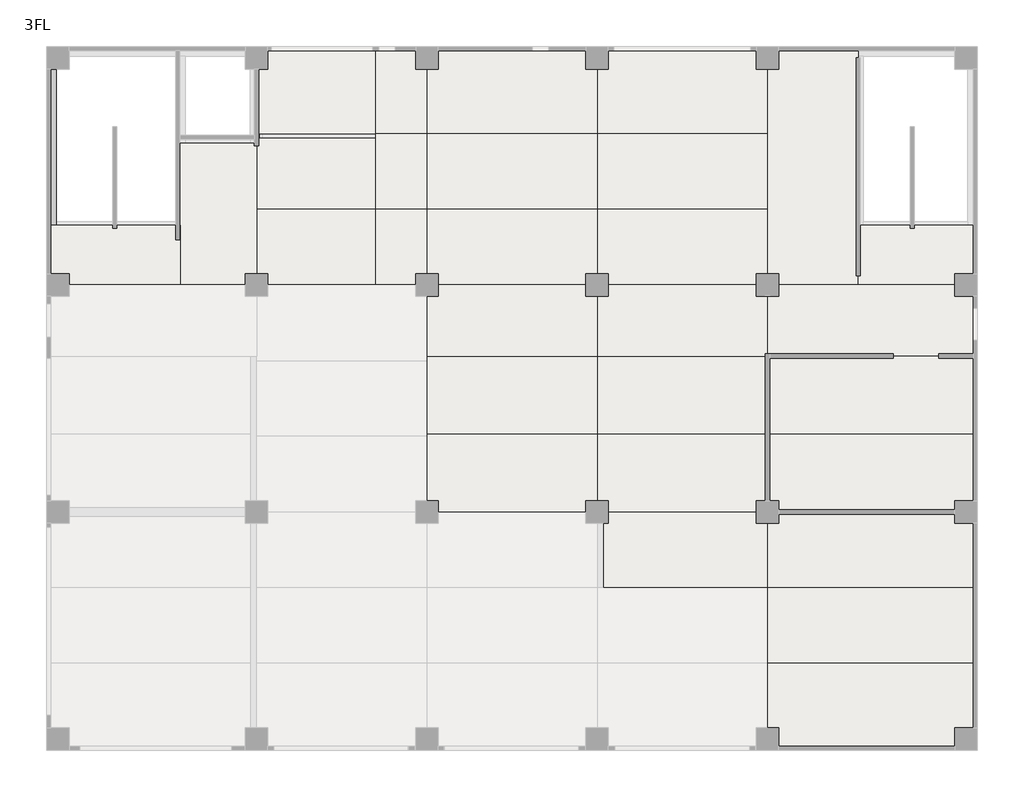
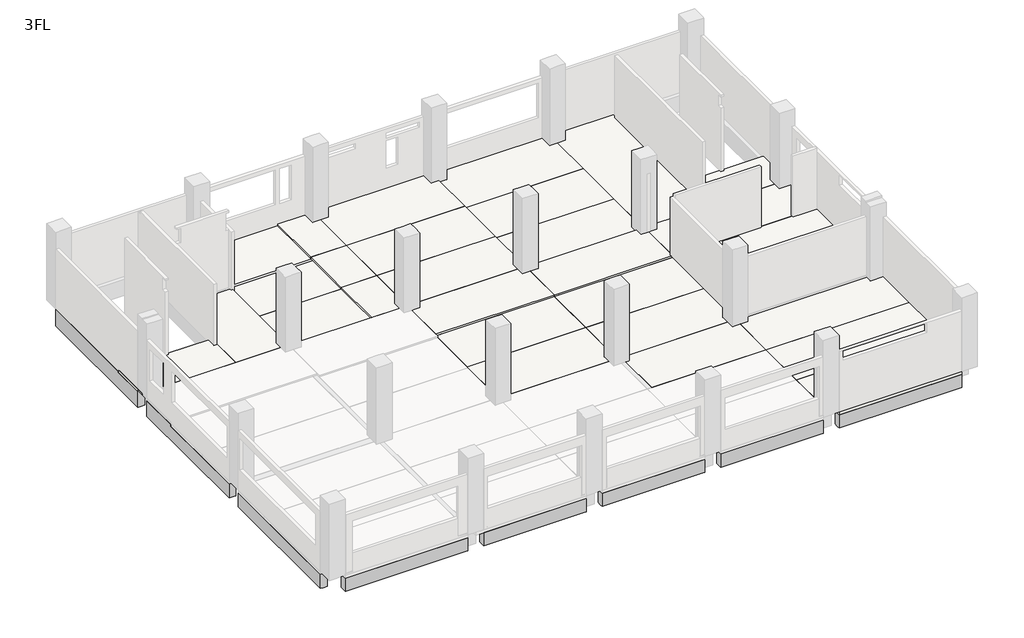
# One storey, part 2 of 4: 29 slabs, 8 beams.
"""IFC4 building model written with IfcOpenShell, lengths in millimetres."""

import ifcopenshell
import ifcopenshell.guid

model = None  # the IFC model being written
_history = None  # IfcOwnerHistory: only IFC2X3 demands one
_inside = {}  # id of a spatial element -> (the spatial element, [elements in it])
_under = {}  # id of a project, library or spatial element -> (it, [spatial elements below it])
_declared = {}  # id of a project -> (the project, [libraries it declares])
_typed = {}  # id of a type object -> (the type object, [elements of that type])
_made_of = {}  # id of a material, layer set ... -> (it, [elements and type objects made of it])


def new_model(schema):
    """Start an empty IFC model of exactly this schema.

    Asked for "IFC4X3", IfcOpenShell would pick the latest addendum, in which some entities
    have other attributes; the version numbers below select the first issue.
    IFC2X3 requires an IfcOwnerHistory on every rooted entity: one is made here for all.
    """
    global model, _history
    if schema == "IFC4X3":
        model = ifcopenshell.file(schema_version=(4, 3, 0, 0))
    else:
        model = ifcopenshell.file(schema=schema)
    _inside.clear()
    _under.clear()
    _declared.clear()
    _typed.clear()
    _made_of.clear()
    _history = None
    if model.schema == "IFC2X3":
        org = make("IfcOrganization", Name="unknown")
        user = make(
            "IfcPersonAndOrganization",
            ThePerson=make("IfcPerson", FamilyName="unknown"),
            TheOrganization=org,
        )
        app = make(
            "IfcApplication",
            ApplicationDeveloper=org,
            Version="unknown",
            ApplicationFullName="unknown",
            ApplicationIdentifier="unknown",
        )
        _history = make(
            "IfcOwnerHistory",
            OwningUser=user,
            OwningApplication=app,
            ChangeAction="ADDED",
            CreationDate=0,
        )
    return model


def make(cls, **values):
    """One entity of the class cls with the attributes given. An attribute that is None is left unset."""
    return model.create_entity(
        cls, **{name: value for name, value in values.items() if value is not None}
    )


def rooted(cls, **values):
    """An entity with a GlobalId (a new one), such as an element, a storey or a relation."""
    return make(cls, GlobalId=ifcopenshell.guid.new(), OwnerHistory=_history, **values)


def si_unit(unit_type, name, prefix=None):
    """IfcSIUnit, for example si_unit("LENGTHUNIT", "METRE", prefix="MILLI")."""
    return make("IfcSIUnit", UnitType=unit_type, Prefix=prefix, Name=name)


def assignment(units):
    """IfcUnitAssignment: the units of a project."""
    return None if units is None else make("IfcUnitAssignment", Units=units)


def point(xyz):
    """IfcCartesianPoint."""
    return None if xyz is None else make("IfcCartesianPoint", Coordinates=xyz)


def direction(xyz):
    """IfcDirection."""
    return None if xyz is None else make("IfcDirection", DirectionRatios=xyz)


def frame(location, z_axis=None, x_axis=None):
    """IfcAxis2Placement3D, a coordinate frame: its origin and axes. An axis left out is left unset."""
    return make(
        "IfcAxis2Placement3D",
        Location=point(location),
        Axis=direction(z_axis),
        RefDirection=direction(x_axis),
    )


def origin():
    """The frame at (0, 0, 0) with its axes left unset."""
    return frame((0.0, 0.0, 0.0))


def place(relative_to, where):
    """IfcLocalPlacement: puts the frame where relative to a parent placement (None: the world)."""
    return make(
        "IfcLocalPlacement", PlacementRelTo=relative_to, RelativePlacement=where
    )


def context(
    kind, dimensions, precision=None, world=None, true_north=None, identifier=None
):
    """IfcGeometricRepresentationContext, for example the 3D "Model" context."""
    return make(
        "IfcGeometricRepresentationContext",
        ContextIdentifier=identifier,
        ContextType=kind,
        CoordinateSpaceDimension=dimensions,
        Precision=precision,
        WorldCoordinateSystem=world,
        TrueNorth=true_north,
    )


def project(units=None, contexts=None):
    """IfcProject with its units and contexts."""
    return rooted(
        "IfcProject",
        Name="project",
        RepresentationContexts=contexts,
        UnitsInContext=assignment(units),
    )


def spatial(cls, under=None, at=None, **own):
    """A site, building, storey or space (cls), placed at a placement, below another one or the project."""
    s = rooted(cls, ObjectPlacement=at, **own)
    if under is not None:
        _under.setdefault(under.id(), (under, []))[1].append(s)
    return s


def polyline(points):
    """IfcPolyline through the points."""
    return make("IfcPolyline", Points=[point(p) for p in points])


def outline(outer, holes=None, kind="AREA"):
    """IfcArbitraryClosedProfileDef: a profile drawn as a closed curve; with holes, ...WithVoids."""
    if holes is None:
        return make("IfcArbitraryClosedProfileDef", ProfileType=kind, OuterCurve=outer)
    return make(
        "IfcArbitraryProfileDefWithVoids",
        ProfileType=kind,
        OuterCurve=outer,
        InnerCurves=holes,
    )


def extrude(swept, where, along, depth):
    """IfcExtrudedAreaSolid: the profile swept, set in the frame where, extruded along a direction by depth."""
    return make(
        "IfcExtrudedAreaSolid",
        SweptArea=swept,
        Position=where,
        ExtrudedDirection=direction(along),
        Depth=depth,
    )


def faces_of(points, faces, orient=None, outer=None):
    """IfcFace entities. A face is a list of loops; a loop is a list of indices into points, from 0.

    orient and outer hold one flag for each loop. By default every Orientation is true, the
    first loop of a face is its IfcFaceOuterBound and the others are IfcFaceBound.
    """
    made = []
    for i, loops in enumerate(faces):
        bounds = []
        for j, loop in enumerate(loops):
            is_outer = j == 0 if outer is None else outer[i][j]
            bounds.append(
                make(
                    "IfcFaceOuterBound" if is_outer else "IfcFaceBound",
                    Bound=make("IfcPolyLoop", Polygon=[points[k] for k in loop]),
                    Orientation=True if orient is None else orient[i][j],
                )
            )
        made.append(make("IfcFace", Bounds=bounds))
    return made


def faceted_brep(points, faces, orient=None, outer=None, voids=None):
    """IfcFacetedBrep: a solid bounded by flat faces; with voids (closed shells), ...WithVoids."""
    shared = [point(p) for p in points]
    hull = make("IfcClosedShell", CfsFaces=faces_of(shared, faces, orient, outer))
    if voids is None:
        return make("IfcFacetedBrep", Outer=hull)
    return make(
        "IfcFacetedBrepWithVoids",
        Outer=hull,
        Voids=[
            make(cls, CfsFaces=faces_of(shared, fs, o, b)) for cls, fs, o, b in voids
        ],
    )


def shape(context_of_items, identifier, shape_type, items):
    """IfcShapeRepresentation: the items that make up one representation, for example the "Body"."""
    return make(
        "IfcShapeRepresentation",
        ContextOfItems=context_of_items,
        RepresentationIdentifier=identifier,
        RepresentationType=shape_type,
        Items=items,
    )


def made_of(thing, what):
    """Note that an element or type object is made of a material, layer set ...; save() writes the relation."""
    if what is not None:
        _made_of.setdefault(what.id(), (what, []))[1].append(thing)
    return thing


def element(
    cls,
    number,
    at=None,
    inside=None,
    cuts=None,
    type_object=None,
    material=None,
    context=None,
    identifier="Body",
    shape_type=None,
    held_by="IfcProductDefinitionShape",
    body=None,
    shapes=None,
    **own,
):
    """One element of the class cls, such as IfcWall. Its Tag is "e" and its number.

    at: its placement. inside: the storey or other place that contains it. cuts: it is an
    opening in that element (IfcRelVoidsElement). A single representation is given by context,
    identifier, shape_type and body (its items); several are given by shapes. held_by: the class
    of the entity that holds the representations. save() writes the other relations.
    """
    e = rooted(cls, Tag="e%d" % number, ObjectPlacement=at, **own)
    if body is not None:
        shapes = [shape(context, identifier, shape_type, body)]
    if shapes is not None:
        e.Representation = make(held_by, Representations=shapes)
    if inside is not None:
        _inside.setdefault(inside.id(), (inside, []))[1].append(e)
    if cuts is not None:
        rooted(
            "IfcRelVoidsElement", RelatingBuildingElement=cuts, RelatedOpeningElement=e
        )
    if type_object is not None:
        _typed.setdefault(type_object.id(), (type_object, []))[1].append(e)
    return made_of(e, material)


def aggregate(whole, parts):
    """IfcRelAggregates: a whole, such as a stair, and the parts it consists of."""
    return rooted("IfcRelAggregates", RelatingObject=whole, RelatedObjects=parts)


def save(model, path):
    """Write the relations noted so far, then the file.

    IfcRelAggregates (storeys below a building ...), IfcRelContainedInSpatialStructure (elements
    in a storey), IfcRelDefinesByType, IfcRelAssociatesMaterial and IfcRelDeclares: one each for
    every whole, place, type object, material and project.
    """
    for whole, parts in _under.values():
        aggregate(whole, parts)
    for where, things in _inside.values():
        rooted(
            "IfcRelContainedInSpatialStructure",
            RelatedElements=things,
            RelatingStructure=where,
        )
    for kind, things in _typed.values():
        rooted("IfcRelDefinesByType", RelatedObjects=things, RelatingType=kind)
    for what, things in _made_of.values():
        rooted("IfcRelAssociatesMaterial", RelatedObjects=things, RelatingMaterial=what)
    for by, libraries in _declared.values():
        rooted("IfcRelDeclares", RelatingContext=by, RelatedDefinitions=libraries)
    model.write(path)


model = new_model("IFC4")

# Units and contexts
model_context = context("Model", 3, world=origin())
ifc_project = project(units=[si_unit("LENGTHUNIT", "METRE", prefix="MILLI")], contexts=[model_context])

# Site, building, storey
site = spatial("IfcSite", under=ifc_project)
building = spatial("IfcBuilding", under=site)
storey = spatial("IfcBuildingStorey", under=building, Name="3FL", Elevation=8200.0)

# Beams
placement = place(None, origin())
element("IfcBeam", 1, ObjectType="RC_B : 3G1", at=placement, inside=storey, context=model_context, shape_type="Brep", body=[
    faceted_brep([(6600.0, -50.0, 7950.0), (6600.0, -50.0, 7250.0), (400.0, -50.0, 7250.0), (400.0, -50.0, 7950.0), (6600.0, -400.0, 7250.0), (6575.0, -400.0, 7250.0), (425.0, -400.0, 7250.0), (400.0, -400.0, 7250.0), (6600.0, -400.0, 7950.0), (400.0, -400.0, 7950.0)], [[[0, 1, 2, 3]], [[1, 4, 5, 6, 7, 2]], [[4, 8, 9, 7, 6, 5]], [[4, 1, 0, 8]], [[8, 0, 3, 9]], [[3, 2, 7, 9]]]),
])
element("IfcBeam", 2, ObjectType="RC_B : 3G1", at=placement, inside=storey, context=model_context, shape_type="Brep", body=[
    faceted_brep([(12600.0, -50.0, 7950.0), (12600.0, -50.0, 7250.0), (7400.0, -50.0, 7250.0), (7400.0, -50.0, 7950.0), (12600.0, -400.0, 7250.0), (12575.0, -400.0, 7250.0), (7400.0, -400.0, 7250.0), (7400.0, -250.0, 7250.0), (12600.0, -400.0, 7950.0), (7400.0, -400.0, 7950.0)], [[[0, 1, 2, 3]], [[1, 4, 5, 6, 7, 2]], [[4, 8, 9, 6, 5]], [[4, 1, 0, 8]], [[8, 0, 3, 9]], [[3, 2, 7, 6, 9]]]),
])
element("IfcBeam", 3, ObjectType="RC_B : 3G1", at=placement, inside=storey, context=model_context, shape_type="Brep", body=[
    faceted_brep([(18600.0, -50.0, 7950.0), (18600.0, -50.0, 7250.0), (13400.0, -50.0, 7250.0), (13400.0, -50.0, 7950.0), (18600.0, -400.0, 7250.0), (18575.0, -400.0, 7250.0), (13400.0, -400.0, 7250.0), (13400.0, -250.0, 7250.0), (18600.0, -400.0, 7950.0), (13400.0, -400.0, 7950.0)], [[[0, 1, 2, 3]], [[1, 4, 5, 6, 7, 2]], [[4, 8, 9, 6, 5]], [[4, 1, 0, 8]], [[8, 0, 3, 9]], [[3, 2, 7, 6, 9]]]),
])
element("IfcBeam", 4, ObjectType="RC_B : 3G1", at=placement, inside=storey, context=model_context, shape_type="Brep", body=[
    faceted_brep([(24600.0, -50.0, 7950.0), (24600.0, -50.0, 7250.0), (19400.0, -50.0, 7250.0), (19400.0, -50.0, 7950.0), (24600.0, -400.0, 7250.0), (24575.0, -400.0, 7250.0), (19400.0, -400.0, 7250.0), (19400.0, -250.0, 7250.0), (24600.0, -400.0, 7950.0), (19400.0, -400.0, 7950.0)], [[[0, 1, 2, 3]], [[1, 4, 5, 6, 7, 2]], [[4, 8, 9, 6, 5]], [[4, 1, 0, 8]], [[8, 0, 3, 9]], [[3, 2, 7, 6, 9]]]),
])
element("IfcBeam", 5, ObjectType="RC_B : 3G1", at=placement, inside=storey, context=model_context, shape_type="Brep", body=[
    faceted_brep([(31600.0, -50.0, 7950.0), (31600.0, -50.0, 7250.0), (25400.0, -50.0, 7250.0), (25400.0, -50.0, 7950.0), (31600.0, -250.0, 7250.0), (31600.0, -400.0, 7250.0), (25400.0, -400.0, 7250.0), (25400.0, -250.0, 7250.0), (31600.0, -400.0, 7950.0), (25400.0, -400.0, 7950.0)], [[[0, 1, 2, 3]], [[1, 4, 5, 6, 7, 2]], [[5, 8, 9, 6]], [[5, 4, 1, 0, 8]], [[8, 0, 3, 9]], [[3, 2, 7, 6, 9]]]),
])
element("IfcBeam", 6, ObjectType="RC_B : 3G11", at=placement, inside=storey, context=model_context, shape_type="Brep", body=[
    faceted_brep([(-400.0, 7600.0, 7950.0), (-400.0, 7600.0, 7200.0), (-400.0, 400.0, 7200.0), (-400.0, 400.0, 7950.0), (-400.0, 2664.0, 7950.0), (-400.0, 5328.0, 7950.0), (-250.0, 7600.0, 7200.0), (-50.0, 7600.0, 7200.0), (-50.0, 400.0, 7200.0), (-250.0, 400.0, 7200.0), (-50.0, 7600.0, 7950.0), (-50.0, 5505.0, 7950.0), (-50.0, 5155.0, 7950.0), (-50.0, 2835.0, 7950.0), (-50.0, 2485.0, 7950.0), (-50.0, 400.0, 7950.0)], [[[0, 1, 2, 3, 4, 5]], [[1, 6, 7, 8, 9, 2]], [[7, 10, 11, 12, 13, 14, 15, 8]], [[7, 6, 1, 0, 10]], [[10, 0, 5, 4, 3, 15, 14, 13, 12, 11]], [[3, 2, 9, 8, 15]]]),
])
element("IfcBeam", 7, ObjectType="RC_B : 3G11", at=placement, inside=storey, context=model_context, shape_type="Brep", body=[
    faceted_brep([(-400.0, 15600.0, 8040.0), (-400.0, 15600.0, 7200.0), (-400.0, 8400.0, 7200.0), (-400.0, 8400.0, 7950.0), (-400.0, 10748.0, 7950.0), (-400.0, 13496.0, 7950.0), (-400.0, 13496.0, 8040.0), (-250.0, 15600.0, 7200.0), (-50.0, 15600.0, 7200.0), (-50.0, 8400.0, 7200.0), (-250.0, 8400.0, 7200.0), (-50.0, 15600.0, 8040.0), (-50.0, 13675.0, 8040.0), (-50.0, 13496.0, 8040.0), (-50.0, 13496.0, 7950.0), (-50.0, 13325.0, 7950.0), (-50.0, 10925.0, 7950.0), (-50.0, 10575.0, 7950.0), (-50.0, 8400.0, 7950.0)], [[[0, 1, 2, 3, 4, 5, 6]], [[1, 7, 8, 9, 10, 2]], [[8, 11, 12, 13, 14, 15, 16, 17, 18, 9]], [[8, 7, 1, 0, 11]], [[0, 6, 13, 12, 11]], [[14, 5, 4, 3, 18, 17, 16, 15]], [[5, 14, 13, 6]], [[3, 2, 10, 9, 18]]]),
])
element("IfcBeam", 8, ObjectType="RC_B : 3G11", at=placement, inside=storey, context=model_context, shape_type="Brep", body=[
    faceted_brep([(-400.0, 23600.0, 8100.0), (-400.0, 23600.0, 7200.0), (-400.0, 16400.0, 7200.0), (-400.0, 16400.0, 8040.0), (-400.0, 18100.0, 8040.0), (-400.0, 18100.0, 8100.0), (-250.0, 23600.0, 7200.0), (-50.0, 23600.0, 7200.0), (-50.0, 16400.0, 7200.0), (-250.0, 16400.0, 7200.0), (-50.0, 23600.0, 8100.0), (-50.0, 18225.0, 8100.0), (-50.0, 18100.0, 8100.0), (-50.0, 18100.0, 8040.0), (-50.0, 17975.0, 8040.0), (-50.0, 16400.0, 8040.0), (-250.0, 23600.0, 8100.0), (-250.0, 18100.0, 8100.0)], [[[0, 1, 2, 3, 4, 5]], [[1, 6, 7, 8, 9, 2]], [[7, 10, 11, 12, 13, 14, 15, 8]], [[10, 16, 0, 5, 17, 12, 11]], [[1, 0, 16, 10, 7, 6]], [[13, 4, 3, 15, 14]], [[4, 13, 12, 17, 5]], [[3, 2, 9, 8, 15]]]),
])

# Slabs
element("IfcSlab", 9, ObjectType="S1", at=placement, inside=storey, context=model_context, shape_type="Brep", body=[
    faceted_brep([(25000.0, 10748.0, 8040.0), (32400.0, 10748.0, 8040.0), (32400.0, 8400.0, 8040.0), (32050.0, 8400.0, 8040.0), (31600.0, 8400.0, 8040.0), (31600.0, 8175.0, 8040.0), (31600.0, 8000.0, 8040.0), (25400.0, 8000.0, 8040.0), (25400.0, 8400.0, 8040.0), (25000.0, 8400.0, 8040.0), (32400.0, 10748.0, 8190.0), (25000.0, 10748.0, 8190.0), (25000.0, 8400.0, 8190.0), (25400.0, 8400.0, 8190.0), (25400.0, 8000.0, 8190.0), (31600.0, 8000.0, 8190.0), (31600.0, 8400.0, 8190.0), (32250.0, 8400.0, 8190.0), (32400.0, 8400.0, 8190.0), (25400.0, 8000.0, 8100.0), (31600.0, 8000.0, 8100.0), (25000.0, 10748.0, 8100.0), (25000.0, 8400.0, 8100.0), (32400.0, 8400.0, 8100.0), (25400.0, 8400.0, 8100.0), (31600.0, 8400.0, 8100.0)], [[[0, 1, 2, 3, 4, 5, 6, 7, 8, 9]], [[10, 11, 12, 13, 14, 15, 16, 17, 18]], [[14, 19, 7, 6, 20, 15]], [[11, 21, 0, 9, 22, 12]], [[1, 0, 21, 11, 10]], [[1, 10, 18, 23, 2]], [[8, 7, 19, 14, 13, 24]], [[9, 8, 24, 13, 12, 22]], [[16, 15, 20, 6, 5, 4, 25]], [[16, 25, 4, 3, 2, 23, 18, 17]]]),
])
element("IfcSlab", 10, ObjectType="S1", at=placement, inside=storey, context=model_context, shape_type="Brep", body=[
    faceted_brep([(32400.0, 13496.0, 8040.0), (32400.0, 10748.0, 8040.0), (25000.0, 10748.0, 8040.0), (25000.0, 13496.0, 8040.0), (32400.0, 13496.0, 8190.0), (25000.0, 13496.0, 8190.0), (25000.0, 10748.0, 8190.0), (32400.0, 10748.0, 8190.0), (25000.0, 10748.0, 8100.0), (25000.0, 13496.0, 8100.0)], [[[0, 1, 2, 3]], [[4, 5, 6, 7]], [[1, 0, 4, 7]], [[2, 1, 7, 6, 8]], [[3, 2, 8, 6, 5, 9]], [[0, 3, 9, 5, 4]]]),
])
element("IfcSlab", 11, ObjectType="S2", at=placement, inside=storey, context=model_context, shape_type="Brep", body=[
    faceted_brep([(19400.0, 7600.0, 7950.0), (19400.0, 8000.0, 7950.0), (24600.0, 8000.0, 7950.0), (24600.0, 7825.0, 7950.0), (24600.0, 7600.0, 7950.0), (24775.0, 7600.0, 7950.0), (25000.0, 7600.0, 7950.0), (25000.0, 5328.0, 7950.0), (19225.0, 5328.0, 7950.0), (19225.0, 5505.0, 7950.0), (19225.0, 7600.0, 7950.0), (19400.0, 8000.0, 8100.0), (19400.0, 7600.0, 8100.0), (19225.0, 7600.0, 8100.0), (19225.0, 5328.0, 8100.0), (25000.0, 5328.0, 8100.0), (25000.0, 7600.0, 8100.0), (24600.0, 7600.0, 8100.0), (24600.0, 8000.0, 8100.0)], [[[0, 1, 2, 3, 4, 5, 6, 7, 8, 9, 10]], [[11, 12, 13, 14, 15, 16, 17, 18]], [[15, 7, 6, 16]], [[7, 15, 14, 8]], [[1, 11, 18, 2]], [[0, 12, 11, 1]], [[12, 0, 10, 13]], [[4, 17, 16, 6, 5]], [[17, 4, 3, 2, 18]], [[10, 9, 8, 14, 13]]]),
])
element("IfcSlab", 12, ObjectType="S2", at=placement, inside=storey, context=model_context, shape_type="Brep", body=[
    faceted_brep([(25000.0, 2664.0, 7950.0), (32400.0, 2664.0, 7950.0), (32400.0, 400.0, 7950.0), (32050.0, 400.0, 7950.0), (31600.0, 400.0, 7950.0), (31600.0, -50.0, 7950.0), (31600.0, -400.0, 7950.0), (25400.0, -400.0, 7950.0), (25400.0, -50.0, 7950.0), (25400.0, 400.0, 7950.0), (25000.0, 400.0, 7950.0), (32400.0, 2664.0, 8100.0), (25000.0, 2664.0, 8100.0), (25000.0, 400.0, 8100.0), (25400.0, 400.0, 8100.0), (25400.0, -400.0, 8100.0), (31600.0, -400.0, 8100.0), (31600.0, 400.0, 8100.0), (32250.0, 400.0, 8100.0), (32400.0, 400.0, 8100.0)], [[[0, 1, 2, 3, 4, 5, 6, 7, 8, 9, 10]], [[11, 12, 13, 14, 15, 16, 17, 18, 19]], [[15, 7, 6, 16]], [[12, 0, 10, 13]], [[1, 0, 12, 11]], [[1, 11, 19, 2]], [[14, 9, 8, 7, 15]], [[9, 14, 13, 10]], [[4, 17, 16, 6, 5]], [[17, 4, 3, 2, 19, 18]]]),
])
element("IfcSlab", 13, ObjectType="S2", at=placement, inside=storey, context=model_context, shape_type="SweptSolid", body=[
    extrude(outline(polyline([(32400.0, 5328.0), (32400.0, 2664.0), (25000.0, 2664.0), (25000.0, 5328.0), (32400.0, 5328.0)])), frame((0.0, 0.0, 7950.0), z_axis=(0.0, 0.0, 1.0), x_axis=(1.0, 0.0, 0.0)), (0.0, 0.0, 1.0), 150.0),
])
element("IfcSlab", 14, ObjectType="S2", at=placement, inside=storey, context=model_context, shape_type="Brep", body=[
    faceted_brep([(32400.0, 5328.0, 7950.0), (25000.0, 5328.0, 7950.0), (25000.0, 7600.0, 7950.0), (25225.0, 7600.0, 7950.0), (25400.0, 7600.0, 7950.0), (25400.0, 8000.0, 7950.0), (31600.0, 8000.0, 7950.0), (31600.0, 7825.0, 7950.0), (31600.0, 7600.0, 7950.0), (32050.0, 7600.0, 7950.0), (32400.0, 7600.0, 7950.0), (25000.0, 5328.0, 8100.0), (32400.0, 5328.0, 8100.0), (32400.0, 7600.0, 8100.0), (32250.0, 7600.0, 8100.0), (31600.0, 7600.0, 8100.0), (31600.0, 8000.0, 8100.0), (25400.0, 8000.0, 8100.0), (25400.0, 7600.0, 8100.0), (25000.0, 7600.0, 8100.0), (25400.0, 8000.0, 8040.0), (31600.0, 8000.0, 8040.0)], [[[0, 1, 2, 3, 4, 5, 6, 7, 8, 9, 10]], [[11, 12, 13, 14, 15, 16, 17, 18, 19]], [[12, 0, 10, 13]], [[1, 0, 12, 11]], [[1, 11, 19, 2]], [[5, 20, 17, 16, 21, 6]], [[4, 18, 17, 20, 5]], [[18, 4, 3, 2, 19]], [[8, 15, 14, 13, 10, 9]], [[15, 8, 7, 6, 21, 16]]]),
])
element("IfcSlab", 15, ObjectType="S2", at=placement, inside=storey, context=model_context, shape_type="Brep", body=[
    faceted_brep([(13400.0, 15600.0, 8040.0), (13400.0, 16000.0, 8040.0), (18600.0, 16000.0, 8040.0), (18600.0, 15825.0, 8040.0), (18600.0, 15600.0, 8040.0), (18775.0, 15600.0, 8040.0), (18775.0, 13675.0, 8040.0), (13000.0, 13675.0, 8040.0), (13000.0, 15600.0, 8040.0), (13225.0, 15600.0, 8040.0), (13000.0, 13496.0, 8190.0), (19000.0, 13496.0, 8190.0), (19000.0, 15600.0, 8190.0), (18600.0, 15600.0, 8190.0), (18600.0, 16000.0, 8190.0), (13400.0, 16000.0, 8190.0), (13400.0, 15600.0, 8190.0), (13000.0, 15600.0, 8190.0), (19000.0, 13496.0, 8100.0), (19000.0, 13675.0, 8100.0), (19000.0, 15600.0, 8100.0), (13000.0, 13496.0, 8100.0), (13225.0, 13496.0, 8100.0), (18775.0, 13496.0, 8100.0), (13000.0, 13675.0, 8100.0), (13400.0, 16000.0, 8100.0), (18600.0, 16000.0, 8100.0), (13400.0, 15600.0, 8100.0), (18775.0, 15600.0, 8100.0), (18600.0, 15600.0, 8100.0), (18775.0, 13675.0, 8100.0), (13225.0, 13675.0, 8100.0)], [[[0, 1, 2, 3, 4, 5, 6, 7, 8, 9]], [[10, 11, 12, 13, 14, 15, 16, 17]], [[12, 11, 18, 19, 20]], [[11, 10, 21, 22, 23, 18]], [[10, 17, 8, 7, 24, 21]], [[1, 25, 15, 14, 26, 2]], [[1, 0, 27, 16, 15, 25]], [[0, 9, 8, 17, 16, 27]], [[13, 12, 20, 28, 5, 4, 29]], [[4, 3, 2, 26, 14, 13, 29]], [[24, 7, 6, 30, 31]], [[21, 24, 31, 30, 28, 20, 19, 18, 23, 22]], [[28, 30, 6, 5]]]),
])
element("IfcSlab", 16, ObjectType="S2", at=placement, inside=storey, context=model_context, shape_type="Brep", body=[
    faceted_brep([(19400.0, 15600.0, 8040.0), (19400.0, 16000.0, 8040.0), (24600.0, 16000.0, 8040.0), (24600.0, 15825.0, 8040.0), (24600.0, 15600.0, 8040.0), (24775.0, 15600.0, 8040.0), (24775.0, 13675.0, 8040.0), (19000.0, 13675.0, 8040.0), (19000.0, 15600.0, 8040.0), (19225.0, 15600.0, 8040.0), (19000.0, 13496.0, 8190.0), (25000.0, 13496.0, 8190.0), (25000.0, 15600.0, 8190.0), (24600.0, 15600.0, 8190.0), (24600.0, 16000.0, 8190.0), (19400.0, 16000.0, 8190.0), (19400.0, 15600.0, 8190.0), (19000.0, 15600.0, 8190.0), (25000.0, 13496.0, 8100.0), (25000.0, 15600.0, 8100.0), (19000.0, 13496.0, 8100.0), (19225.0, 13496.0, 8100.0), (24775.0, 13496.0, 8100.0), (19000.0, 15600.0, 8100.0), (19000.0, 13675.0, 8100.0), (19400.0, 16000.0, 8100.0), (24600.0, 16000.0, 8100.0), (19400.0, 15600.0, 8100.0), (24775.0, 15600.0, 8100.0), (24600.0, 15600.0, 8100.0), (24775.0, 13675.0, 8100.0), (19225.0, 13675.0, 8100.0)], [[[0, 1, 2, 3, 4, 5, 6, 7, 8, 9]], [[10, 11, 12, 13, 14, 15, 16, 17]], [[12, 11, 18, 19]], [[11, 10, 20, 21, 22, 18]], [[10, 17, 23, 8, 7, 24, 20]], [[1, 25, 15, 14, 26, 2]], [[1, 0, 27, 16, 15, 25]], [[0, 9, 8, 23, 17, 16, 27]], [[13, 12, 19, 28, 5, 4, 29]], [[4, 3, 2, 26, 14, 13, 29]], [[24, 7, 6, 30, 31]], [[20, 24, 31, 30, 28, 19, 18, 22, 21]], [[28, 30, 6, 5]]]),
])
element("IfcSlab", 17, ObjectType="S2", at=placement, inside=storey, context=model_context, shape_type="Brep", body=[
    faceted_brep([(32400.0, 13496.0, 8040.0), (25000.0, 13496.0, 8040.0), (25000.0, 15600.0, 8040.0), (25225.0, 15600.0, 8040.0), (25400.0, 15600.0, 8040.0), (25400.0, 16000.0, 8040.0), (28199.0, 16000.0, 8040.0), (31600.0, 16000.0, 8040.0), (31600.0, 15825.0, 8040.0), (31600.0, 15600.0, 8040.0), (32050.0, 15600.0, 8040.0), (32400.0, 15600.0, 8040.0), (25000.0, 13496.0, 8190.0), (32400.0, 13496.0, 8190.0), (32400.0, 15600.0, 8190.0), (32250.0, 15600.0, 8190.0), (31600.0, 15600.0, 8190.0), (31600.0, 16000.0, 8190.0), (28199.0, 16000.0, 8190.0), (25400.0, 16000.0, 8190.0), (25400.0, 15600.0, 8190.0), (25000.0, 15600.0, 8190.0), (32400.0, 15600.0, 8100.0), (25000.0, 13496.0, 8100.0), (25000.0, 15600.0, 8100.0), (25400.0, 16000.0, 8100.0), (25400.0, 15600.0, 8100.0), (31600.0, 15600.0, 8100.0)], [[[0, 1, 2, 3, 4, 5, 6, 7, 8, 9, 10, 11]], [[12, 13, 14, 15, 16, 17, 18, 19, 20, 21]], [[13, 0, 11, 22, 14]], [[1, 0, 13, 12, 23]], [[1, 23, 12, 21, 24, 2]], [[5, 25, 19, 18, 17, 7, 6]], [[5, 4, 26, 20, 19, 25]], [[4, 3, 2, 24, 21, 20, 26]], [[16, 15, 14, 22, 11, 10, 9, 27]], [[16, 27, 9, 8, 7, 17]]]),
])
element("IfcSlab", 18, ObjectType="S2", at=placement, inside=storey, context=model_context, shape_type="Brep", body=[
    faceted_brep([(12600.0, 16400.0, 8040.0), (12600.0, 16175.0, 8040.0), (12600.0, 16000.0, 8040.0), (11200.0, 16000.0, 8040.0), (11200.0, 16175.0, 8040.0), (11200.0, 18495.0, 8040.0), (13000.0, 18495.0, 8040.0), (13000.0, 16400.0, 8040.0), (11200.0, 18664.0, 8190.0), (11200.0, 16000.0, 8190.0), (12600.0, 16000.0, 8190.0), (12600.0, 16400.0, 8190.0), (13000.0, 16400.0, 8190.0), (13000.0, 18664.0, 8190.0), (11200.0, 16000.0, 8100.0), (11200.0, 18664.0, 8100.0), (11200.0, 18495.0, 8100.0), (13000.0, 18664.0, 8100.0), (12775.0, 18664.0, 8100.0), (13000.0, 16400.0, 8100.0), (13000.0, 18495.0, 8100.0), (12600.0, 16400.0, 8100.0), (12775.0, 18495.0, 8100.0)], [[[0, 1, 2, 3, 4, 5, 6, 7]], [[8, 9, 10, 11, 12, 13]], [[9, 14, 3, 2, 10]], [[9, 8, 15, 16, 5, 4, 3, 14]], [[8, 13, 17, 18, 15]], [[13, 12, 19, 7, 6, 20, 17]], [[2, 1, 0, 21, 11, 10]], [[0, 7, 19, 12, 11, 21]], [[16, 22, 20, 6, 5]], [[20, 22, 16, 15, 18, 17]]]),
])
element("IfcSlab", 19, ObjectType="S2", at=placement, inside=storey, context=model_context, shape_type="Brep", body=[
    faceted_brep([(11200.0, 18664.0, 7950.0), (7000.0, 18664.0, 7950.0), (7000.0, 21328.0, 7950.0), (7087.7, 21328.0, 7950.0), (7087.7, 21165.0, 7950.0), (11200.0, 21165.0, 7950.0), (11200.0, 18845.0, 7950.0), (7000.0, 18664.0, 8100.0), (11200.0, 18664.0, 8100.0), (11200.0, 21165.0, 8100.0), (7225.0, 21165.0, 8100.0), (7087.7, 21165.0, 8100.0), (7087.7, 21328.0, 8100.0), (7000.0, 21328.0, 8100.0), (7000.0, 21000.0, 8100.0), (11200.0, 18664.0, 8040.0), (11200.0, 21165.0, 8040.0)], [[[0, 1, 2, 3, 4, 5, 6]], [[7, 8, 9, 10, 11, 12, 13, 14]], [[8, 15, 0, 6, 5, 16, 9]], [[1, 0, 15, 8, 7]], [[2, 1, 7, 14, 13]], [[2, 13, 12, 3]], [[4, 11, 10, 9, 16, 5]], [[11, 4, 3, 12]]]),
])
element("IfcSlab", 20, ObjectType="S2", at=placement, inside=storey, context=model_context, shape_type="Brep", body=[
    faceted_brep([(12600.0, 23600.0, 8040.0), (12775.0, 23600.0, 8040.0), (13000.0, 23600.0, 8040.0), (13000.0, 21515.0, 8040.0), (11200.0, 21515.0, 8040.0), (11200.0, 24050.0, 8040.0), (11200.0, 24400.0, 8040.0), (12600.0, 24400.0, 8040.0), (12600.0, 24050.0, 8040.0), (13000.0, 21328.0, 8190.0), (13000.0, 24400.0, 8190.0), (12600.0, 24400.0, 8190.0), (11200.0, 24400.0, 8190.0), (11200.0, 21328.0, 8190.0), (13000.0, 21328.0, 8100.0), (13000.0, 21515.0, 8100.0), (13000.0, 23600.0, 8100.0), (13000.0, 24400.0, 8100.0), (11200.0, 21328.0, 8100.0), (12775.0, 21328.0, 8100.0), (11200.0, 24400.0, 8100.0), (11200.0, 21515.0, 8100.0), (12600.0, 24400.0, 8100.0), (12600.0, 23600.0, 8100.0), (12600.0, 24250.0, 8100.0), (12775.0, 21515.0, 8100.0)], [[[0, 1, 2, 3, 4, 5, 6, 7, 8]], [[9, 10, 11, 12, 13]], [[10, 9, 14, 15, 3, 2, 16, 17]], [[9, 13, 18, 19, 14]], [[13, 12, 20, 6, 5, 4, 21, 18]], [[12, 11, 10, 17, 22, 7, 6, 20]], [[0, 23, 16, 2, 1]], [[22, 24, 23, 0, 8, 7]], [[23, 24, 22, 17, 16]], [[15, 25, 21, 4, 3]], [[21, 25, 15, 14, 19, 18]]]),
])
element("IfcSlab", 21, ObjectType="S2", at=placement, inside=storey, context=model_context, shape_type="Brep", body=[
    faceted_brep([(18600.0, 16400.0, 8040.0), (18600.0, 16175.0, 8040.0), (13400.0, 16175.0, 8040.0), (13400.0, 16400.0, 8040.0), (13225.0, 16400.0, 8040.0), (13225.0, 18495.0, 8040.0), (18775.0, 18495.0, 8040.0), (18775.0, 16400.0, 8040.0), (19000.0, 18664.0, 8190.0), (13000.0, 18664.0, 8190.0), (13000.0, 16400.0, 8190.0), (13400.0, 16400.0, 8190.0), (13400.0, 16000.0, 8190.0), (18600.0, 16000.0, 8190.0), (18600.0, 16400.0, 8190.0), (19000.0, 16400.0, 8190.0), (13400.0, 16000.0, 8100.0), (18600.0, 16000.0, 8100.0), (13000.0, 18664.0, 8100.0), (13000.0, 18495.0, 8100.0), (13000.0, 16400.0, 8100.0), (19000.0, 18664.0, 8100.0), (19000.0, 16400.0, 8100.0), (13400.0, 16175.0, 8100.0), (13400.0, 16400.0, 8100.0), (13225.0, 16400.0, 8100.0), (18600.0, 16400.0, 8100.0), (18600.0, 16175.0, 8100.0), (18775.0, 16400.0, 8100.0), (13225.0, 18495.0, 8100.0), (18775.0, 18495.0, 8100.0)], [[[0, 1, 2, 3, 4, 5, 6, 7]], [[8, 9, 10, 11, 12, 13, 14, 15]], [[16, 17, 13, 12]], [[10, 9, 18, 19, 20]], [[9, 8, 21, 18]], [[8, 15, 22, 21]], [[3, 2, 23, 16, 12, 11, 24]], [[4, 3, 24, 11, 10, 20, 25]], [[1, 0, 26, 14, 13, 17, 27]], [[0, 7, 28, 22, 15, 14, 26]], [[2, 1, 27, 23]], [[17, 16, 23, 27]], [[4, 25, 29, 5]], [[22, 28, 30, 29, 25, 20, 19, 18, 21]], [[28, 7, 6, 30]], [[29, 30, 6, 5]]]),
])
element("IfcSlab", 22, ObjectType="S2", at=placement, inside=storey, context=model_context, shape_type="Brep", body=[
    faceted_brep([(18775.0, 18845.0, 8040.0), (13225.0, 18845.0, 8040.0), (13225.0, 21165.0, 8040.0), (18775.0, 21165.0, 8040.0), (19000.0, 18664.0, 8190.0), (19000.0, 21328.0, 8190.0), (13000.0, 21328.0, 8190.0), (13000.0, 18664.0, 8190.0), (19000.0, 18664.0, 8100.0), (19000.0, 21328.0, 8100.0), (13000.0, 18664.0, 8100.0), (13000.0, 21328.0, 8100.0), (13225.0, 18845.0, 8100.0), (13225.0, 21165.0, 8100.0), (18775.0, 18845.0, 8100.0), (18775.0, 21165.0, 8100.0)], [[[0, 1, 2, 3]], [[4, 5, 6, 7]], [[5, 4, 8, 9]], [[4, 7, 10, 8]], [[7, 6, 11, 10]], [[6, 5, 9, 11]], [[1, 12, 13, 2]], [[8, 10, 11, 9], [14, 15, 13, 12]], [[14, 0, 3, 15]], [[1, 0, 14, 12]], [[13, 15, 3, 2]]]),
])
element("IfcSlab", 23, ObjectType="S2", at=placement, inside=storey, context=model_context, shape_type="Brep", body=[
    faceted_brep([(13400.0, 23600.0, 8040.0), (13400.0, 24050.0, 8040.0), (13400.0, 24400.0, 8040.0), (18600.0, 24400.0, 8040.0), (18600.0, 24050.0, 8040.0), (18600.0, 23600.0, 8040.0), (18775.0, 23600.0, 8040.0), (18775.0, 21515.0, 8040.0), (13225.0, 21515.0, 8040.0), (13225.0, 23600.0, 8040.0), (19000.0, 21328.0, 8190.0), (19000.0, 23600.0, 8190.0), (19000.0, 24400.0, 8190.0), (18600.0, 24400.0, 8190.0), (13400.0, 24400.0, 8190.0), (13000.0, 24400.0, 8190.0), (13000.0, 21328.0, 8190.0), (19000.0, 21328.0, 8100.0), (19000.0, 23600.0, 8100.0), (19000.0, 24400.0, 8100.0), (13000.0, 21328.0, 8100.0), (13000.0, 24400.0, 8100.0), (13000.0, 23600.0, 8100.0), (13000.0, 21515.0, 8100.0), (18600.0, 24400.0, 8100.0), (13400.0, 24400.0, 8100.0), (13400.0, 23600.0, 8100.0), (13400.0, 24250.0, 8100.0), (13225.0, 23600.0, 8100.0), (13225.0, 21515.0, 8100.0), (18775.0, 21515.0, 8100.0), (18775.0, 23600.0, 8100.0), (18600.0, 23600.0, 8100.0), (18600.0, 24250.0, 8100.0)], [[[0, 1, 2, 3, 4, 5, 6, 7, 8, 9]], [[10, 11, 12, 13, 14, 15, 16]], [[12, 11, 10, 17, 18, 19]], [[10, 16, 20, 17]], [[16, 15, 21, 22, 23, 20]], [[15, 14, 13, 12, 19, 24, 3, 2, 25, 21]], [[26, 27, 25, 2, 1, 0]], [[26, 0, 9, 28]], [[25, 27, 26, 28, 29, 30, 31, 32, 33, 24, 19, 18, 17, 20, 23, 22, 21]], [[5, 32, 31, 6]], [[24, 33, 32, 5, 4, 3]], [[28, 9, 8, 29]], [[6, 31, 30, 7]], [[30, 29, 8, 7]]]),
])
element("IfcSlab", 24, ObjectType="S2", at=placement, inside=storey, context=model_context, shape_type="Brep", body=[
    faceted_brep([(19000.0, 18664.0, 7950.0), (25000.0, 18664.0, 7950.0), (25000.0, 16400.0, 7950.0), (24600.0, 16400.0, 7950.0), (24600.0, 16175.0, 7950.0), (24600.0, 16000.0, 7950.0), (19400.0, 16000.0, 7950.0), (19400.0, 16400.0, 7950.0), (19000.0, 16400.0, 7950.0), (25000.0, 18664.0, 8100.0), (19000.0, 18664.0, 8100.0), (19000.0, 16400.0, 8100.0), (19400.0, 16400.0, 8100.0), (19400.0, 16000.0, 8100.0), (24600.0, 16000.0, 8100.0), (24600.0, 16400.0, 8100.0), (25000.0, 16400.0, 8100.0), (19400.0, 16000.0, 8040.0), (24600.0, 16000.0, 8040.0)], [[[0, 1, 2, 3, 4, 5, 6, 7, 8]], [[9, 10, 11, 12, 13, 14, 15, 16]], [[13, 17, 6, 5, 18, 14]], [[10, 0, 8, 11]], [[1, 0, 10, 9]], [[1, 9, 16, 2]], [[12, 7, 6, 17, 13]], [[7, 12, 11, 8]], [[3, 15, 14, 18, 5, 4]], [[15, 3, 2, 16]]]),
])
element("IfcSlab", 25, ObjectType="S2", at=placement, inside=storey, context=model_context, shape_type="SweptSolid", body=[
    extrude(outline(polyline([(25000.0, 21328.0), (25000.0, 18664.0), (19000.0, 18664.0), (19000.0, 21328.0), (25000.0, 21328.0)])), frame((0.0, 0.0, 7950.0), z_axis=(0.0, 0.0, 1.0), x_axis=(1.0, 0.0, 0.0)), (0.0, 0.0, 1.0), 150.0),
])
element("IfcSlab", 26, ObjectType="S2", at=placement, inside=storey, context=model_context, shape_type="Brep", body=[
    faceted_brep([(25000.0, 21328.0, 7950.0), (19000.0, 21328.0, 7950.0), (19000.0, 23600.0, 7950.0), (19225.0, 23600.0, 7950.0), (19400.0, 23600.0, 7950.0), (19400.0, 24050.0, 7950.0), (19400.0, 24400.0, 7950.0), (24600.0, 24400.0, 7950.0), (24600.0, 24050.0, 7950.0), (24600.0, 23600.0, 7950.0), (24775.0, 23600.0, 7950.0), (25000.0, 23600.0, 7950.0), (19000.0, 21328.0, 8100.0), (25000.0, 21328.0, 8100.0), (25000.0, 23600.0, 8100.0), (24600.0, 23600.0, 8100.0), (24600.0, 24250.0, 8100.0), (24600.0, 24400.0, 8100.0), (19400.0, 24400.0, 8100.0), (19400.0, 24250.0, 8100.0), (19400.0, 23600.0, 8100.0), (19000.0, 23600.0, 8100.0)], [[[0, 1, 2, 3, 4, 5, 6, 7, 8, 9, 10, 11]], [[12, 13, 14, 15, 16, 17, 18, 19, 20, 21]], [[13, 0, 11, 14]], [[1, 0, 13, 12]], [[1, 12, 21, 2]], [[6, 18, 17, 7]], [[4, 20, 19, 18, 6, 5]], [[20, 4, 3, 2, 21]], [[9, 15, 14, 11, 10]], [[15, 9, 8, 7, 17, 16]]]),
])
element("IfcSlab", 27, ObjectType="S2", at=placement, inside=storey, context=model_context, shape_type="Brep", body=[
    faceted_brep([(28199.0, 24400.0, 7950.0), (28199.0, 24050.0, 7950.0), (28199.0, 16175.0, 7950.0), (28199.0, 16000.0, 7950.0), (25400.0, 16000.0, 7950.0), (25400.0, 16400.0, 7950.0), (25000.0, 16400.0, 7950.0), (25000.0, 18664.0, 7950.0), (25000.0, 21328.0, 7950.0), (25000.0, 23600.0, 7950.0), (25225.0, 23600.0, 7950.0), (25400.0, 23600.0, 7950.0), (25400.0, 24050.0, 7950.0), (25400.0, 24400.0, 7950.0), (28199.0, 16000.0, 8100.0), (28199.0, 16175.0, 8100.0), (28199.0, 24050.0, 8100.0), (28199.0, 24400.0, 8100.0), (25400.0, 24400.0, 8100.0), (25400.0, 24250.0, 8100.0), (25400.0, 23600.0, 8100.0), (25000.0, 23600.0, 8100.0), (25000.0, 21328.0, 8100.0), (25000.0, 18664.0, 8100.0), (25000.0, 16400.0, 8100.0), (25400.0, 16400.0, 8100.0), (25400.0, 16000.0, 8100.0), (28199.0, 16000.0, 8040.0), (25400.0, 16000.0, 8040.0)], [[[0, 1, 2, 3, 4, 5, 6, 7, 8, 9, 10, 11, 12, 13]], [[14, 15, 16, 17, 18, 19, 20, 21, 22, 23, 24, 25, 26]], [[3, 27, 14, 26, 28, 4]], [[6, 24, 23, 22, 21, 9, 8, 7]], [[17, 0, 13, 18]], [[3, 2, 1, 0, 17, 16, 15, 14, 27]], [[25, 5, 4, 28, 26]], [[5, 25, 24, 6]], [[11, 20, 19, 18, 13, 12]], [[20, 11, 10, 9, 21]]]),
])
element("IfcSlab", 28, ObjectType="S2", at=placement, inside=storey, context=model_context, shape_type="Brep", body=[
    faceted_brep([(13000.0, 10748.0, 7950.0), (19000.0, 10748.0, 7950.0), (19000.0, 8400.0, 7950.0), (18600.0, 8400.0, 7950.0), (18600.0, 8175.0, 7950.0), (18600.0, 8000.0, 7950.0), (13400.0, 8000.0, 7950.0), (13400.0, 8400.0, 7950.0), (13000.0, 8400.0, 7950.0), (13000.0, 10664.0, 7950.0), (19000.0, 10748.0, 8100.0), (13000.0, 10748.0, 8100.0), (13000.0, 10664.0, 8100.0), (13000.0, 8400.0, 8100.0), (13400.0, 8400.0, 8100.0), (13400.0, 8000.0, 8100.0), (18600.0, 8000.0, 8100.0), (18600.0, 8400.0, 8100.0), (19000.0, 8400.0, 8100.0)], [[[0, 1, 2, 3, 4, 5, 6, 7, 8, 9]], [[10, 11, 12, 13, 14, 15, 16, 17, 18]], [[15, 6, 5, 16]], [[11, 0, 9, 8, 13, 12]], [[1, 0, 11, 10]], [[1, 10, 18, 2]], [[14, 7, 6, 15]], [[7, 14, 13, 8]], [[3, 17, 16, 5, 4]], [[17, 3, 2, 18]]]),
])
element("IfcSlab", 29, ObjectType="S2", at=placement, inside=storey, context=model_context, shape_type="Brep", body=[
    faceted_brep([(19000.0, 13496.0, 7950.0), (19000.0, 10748.0, 7950.0), (13000.0, 10748.0, 7950.0), (13000.0, 13328.0, 7950.0), (13000.0, 13496.0, 7950.0), (13225.0, 13496.0, 7950.0), (18775.0, 13496.0, 7950.0), (19000.0, 13496.0, 8100.0), (18775.0, 13496.0, 8100.0), (13225.0, 13496.0, 8100.0), (13000.0, 13496.0, 8100.0), (13000.0, 13328.0, 8100.0), (13000.0, 10748.0, 8100.0), (19000.0, 10748.0, 8100.0), (19000.0, 13496.0, 8040.0), (13000.0, 13496.0, 8040.0)], [[[0, 1, 2, 3, 4, 5, 6]], [[7, 8, 9, 10, 11, 12, 13]], [[1, 0, 14, 7, 13]], [[2, 1, 13, 12]], [[4, 3, 2, 12, 11, 10, 15]], [[0, 6, 5, 4, 15, 10, 9, 8, 7, 14]]]),
])
element("IfcSlab", 30, ObjectType="S2", at=placement, inside=storey, context=model_context, shape_type="Brep", body=[
    faceted_brep([(19000.0, 10748.0, 7950.0), (19225.0, 10748.0, 7950.0), (25000.0, 10748.0, 7950.0), (25000.0, 8400.0, 7950.0), (24600.0, 8400.0, 7950.0), (24600.0, 8175.0, 7950.0), (24600.0, 8000.0, 7950.0), (19400.0, 8000.0, 7950.0), (19400.0, 8400.0, 7950.0), (19000.0, 8400.0, 7950.0), (25000.0, 10748.0, 8100.0), (19225.0, 10748.0, 8100.0), (19000.0, 10748.0, 8100.0), (19000.0, 8400.0, 8100.0), (19400.0, 8400.0, 8100.0), (19400.0, 8000.0, 8100.0), (24600.0, 8000.0, 8100.0), (24600.0, 8400.0, 8100.0), (25000.0, 8400.0, 8100.0), (25000.0, 10748.0, 8040.0), (25000.0, 8400.0, 8040.0)], [[[0, 1, 2, 3, 4, 5, 6, 7, 8, 9]], [[10, 11, 12, 13, 14, 15, 16, 17, 18]], [[15, 7, 6, 16]], [[12, 0, 9, 13]], [[2, 1, 0, 12, 11, 10, 19]], [[2, 19, 10, 18, 20, 3]], [[14, 8, 7, 15]], [[8, 14, 13, 9]], [[4, 17, 16, 6, 5]], [[17, 4, 3, 20, 18]]]),
])
element("IfcSlab", 31, ObjectType="S2", at=placement, inside=storey, context=model_context, shape_type="Brep", body=[
    faceted_brep([(25000.0, 13496.0, 7950.0), (25000.0, 10748.0, 7950.0), (19000.0, 10748.0, 7950.0), (19000.0, 13496.0, 7950.0), (19225.0, 13496.0, 7950.0), (24775.0, 13496.0, 7950.0), (25000.0, 13496.0, 8100.0), (24775.0, 13496.0, 8100.0), (19225.0, 13496.0, 8100.0), (19000.0, 13496.0, 8100.0), (19000.0, 10748.0, 8100.0), (25000.0, 10748.0, 8100.0), (25000.0, 13496.0, 8040.0), (25000.0, 10748.0, 8040.0)], [[[0, 1, 2, 3, 4, 5]], [[6, 7, 8, 9, 10, 11]], [[1, 0, 12, 6, 11, 13]], [[2, 1, 13, 11, 10]], [[3, 2, 10, 9]], [[0, 5, 4, 3, 9, 8, 7, 6, 12]]]),
])
element("IfcSlab", 32, ObjectType="S2", at=placement, inside=storey, context=model_context, shape_type="Brep", body=[
    faceted_brep([(-400.0, 18100.0, 8040.0), (-50.0, 18100.0, 8040.0), (4144.0, 18100.0, 8040.0), (4319.0, 18100.0, 8040.0), (4319.0, 16000.0, 8040.0), (400.0, 16000.0, 8040.0), (400.0, 16400.0, 8040.0), (-50.0, 16400.0, 8040.0), (-400.0, 16400.0, 8040.0), (-400.0, 16000.0, 8190.0), (4319.0, 16000.0, 8190.0), (4319.0, 18100.0, 8190.0), (-250.0, 18100.0, 8190.0), (-400.0, 18100.0, 8190.0), (-400.0, 16400.0, 8190.0), (-400.0, 16000.0, 8100.0), (400.0, 16000.0, 8100.0), (-400.0, 18100.0, 8100.0), (-400.0, 16400.0, 8100.0), (400.0, 16400.0, 8100.0)], [[[0, 1, 2, 3, 4, 5, 6, 7, 8]], [[9, 10, 11, 12, 13, 14]], [[10, 9, 15, 16, 5, 4]], [[9, 14, 13, 17, 0, 8, 18, 15]], [[3, 2, 1, 0, 17, 13, 12, 11]], [[4, 3, 11, 10]], [[19, 6, 5, 16]], [[19, 18, 8, 7, 6]], [[18, 19, 16, 15]]]),
])
element("IfcSlab", 33, ObjectType="S2", at=placement, inside=storey, context=model_context, shape_type="Brep", body=[
    faceted_brep([(6600.0, 16000.0, 8040.0), (4319.0, 16000.0, 8040.0), (4319.0, 18100.0, 8040.0), (4319.0, 20875.0, 8040.0), (6912.3, 20875.0, 8040.0), (6912.3, 21000.0, 8040.0), (7000.0, 21000.0, 8040.0), (7000.0, 16400.0, 8040.0), (6600.0, 16400.0, 8040.0), (6600.0, 16175.0, 8040.0), (4319.0, 21000.0, 8190.0), (4319.0, 18100.0, 8190.0), (4319.0, 16000.0, 8190.0), (6600.0, 16000.0, 8190.0), (6600.0, 16400.0, 8190.0), (7000.0, 16400.0, 8190.0), (7000.0, 21000.0, 8190.0), (4319.0, 21000.0, 8100.0), (4319.0, 20875.0, 8100.0), (7000.0, 21000.0, 8100.0), (6912.3, 21000.0, 8100.0), (7000.0, 16400.0, 8100.0), (6600.0, 16400.0, 8100.0), (4494.0, 20875.0, 8100.0), (6775.0, 20875.0, 8100.0), (6912.3, 20875.0, 8100.0)], [[[0, 1, 2, 3, 4, 5, 6, 7, 8, 9]], [[10, 11, 12, 13, 14, 15, 16]], [[12, 1, 0, 13]], [[12, 11, 10, 17, 18, 3, 2, 1]], [[10, 16, 19, 6, 5, 20, 17]], [[6, 19, 16, 15, 21, 7]], [[0, 9, 8, 22, 14, 13]], [[8, 7, 21, 15, 14, 22]], [[18, 23, 24, 25, 4, 3]], [[25, 24, 23, 18, 17, 20]], [[4, 25, 20, 5]]]),
])
element("IfcSlab", 34, ObjectType="S2", at=placement, inside=storey, context=model_context, shape_type="Brep", body=[
    faceted_brep([(28199.0, 16000.0, 8040.0), (28199.0, 16175.0, 8040.0), (28199.0, 18100.0, 8040.0), (28374.0, 18100.0, 8040.0), (32050.0, 18100.0, 8040.0), (32400.0, 18100.0, 8040.0), (32400.0, 16400.0, 8040.0), (32050.0, 16400.0, 8040.0), (31600.0, 16400.0, 8040.0), (31600.0, 16175.0, 8040.0), (31600.0, 16000.0, 8040.0), (28199.0, 18100.0, 8190.0), (28199.0, 16000.0, 8190.0), (31600.0, 16000.0, 8190.0), (31600.0, 16400.0, 8190.0), (32250.0, 16400.0, 8190.0), (32400.0, 16400.0, 8190.0), (32400.0, 18100.0, 8190.0), (32250.0, 18100.0, 8190.0), (28199.0, 16000.0, 8100.0), (32400.0, 18100.0, 8100.0), (32400.0, 16400.0, 8100.0), (31600.0, 16400.0, 8100.0)], [[[0, 1, 2, 3, 4, 5, 6, 7, 8, 9, 10]], [[11, 12, 13, 14, 15, 16, 17, 18]], [[12, 19, 0, 10, 13]], [[2, 1, 0, 19, 12, 11]], [[5, 4, 3, 2, 11, 18, 17, 20]], [[5, 20, 17, 16, 21, 6]], [[14, 13, 10, 9, 8, 22]], [[14, 22, 8, 7, 6, 21, 16, 15]]]),
])
element("IfcSlab", 35, ObjectType="S2", at=placement, inside=storey, context=model_context, shape_type="Brep", body=[
    faceted_brep([(11200.0, 16000.0, 7950.0), (7400.0, 16000.0, 7950.0), (7225.0, 16000.0, 7950.0), (7000.0, 16000.0, 7950.0), (7000.0, 16175.0, 7950.0), (7000.0, 16400.0, 7950.0), (7000.0, 18664.0, 7950.0), (11200.0, 18664.0, 7950.0), (11200.0, 18495.0, 7950.0), (11200.0, 16175.0, 7950.0), (11200.0, 16000.0, 8100.0), (11200.0, 18495.0, 8100.0), (11200.0, 18664.0, 8100.0), (7000.0, 18664.0, 8100.0), (7000.0, 16400.0, 8100.0), (7000.0, 16000.0, 8100.0), (7400.0, 16000.0, 8100.0), (11200.0, 16000.0, 8040.0), (11200.0, 18664.0, 8040.0)], [[[0, 1, 2, 3, 4, 5, 6, 7, 8, 9]], [[10, 11, 12, 13, 14, 15, 16]], [[3, 2, 1, 0, 17, 10, 16, 15]], [[6, 5, 4, 3, 15, 14, 13]], [[7, 6, 13, 12, 18]], [[0, 9, 8, 7, 18, 12, 11, 10, 17]]]),
])
element("IfcSlab", 36, ObjectType="S2", at=placement, inside=storey, context=model_context, shape_type="Brep", body=[
    faceted_brep([(13000.0, 21328.0, 8040.0), (13000.0, 18664.0, 8040.0), (12775.0, 18664.0, 8040.0), (11200.0, 18664.0, 8040.0), (11200.0, 18845.0, 8040.0), (11200.0, 21165.0, 8040.0), (11200.0, 21328.0, 8040.0), (12775.0, 21328.0, 8040.0), (13000.0, 21328.0, 8190.0), (11200.0, 21328.0, 8190.0), (11200.0, 18664.0, 8190.0), (13000.0, 18664.0, 8190.0), (13000.0, 21328.0, 8100.0), (13000.0, 18664.0, 8100.0), (11200.0, 18664.0, 8100.0), (11200.0, 21328.0, 8100.0)], [[[0, 1, 2, 3, 4, 5, 6, 7]], [[8, 9, 10, 11]], [[1, 0, 12, 8, 11, 13]], [[3, 2, 1, 13, 11, 10, 14]], [[6, 5, 4, 3, 14, 10, 9, 15]], [[0, 7, 6, 15, 9, 8, 12]]]),
])
element("IfcSlab", 37, ObjectType="S2", at=placement, inside=storey, context=model_context, shape_type="Brep", body=[
    faceted_brep([(11200.0, 24400.0, 7950.0), (11200.0, 24050.0, 7950.0), (11200.0, 21515.0, 7950.0), (11200.0, 21328.0, 7950.0), (7225.0, 21328.0, 7950.0), (7087.7, 21328.0, 7950.0), (7000.0, 21328.0, 7950.0), (7000.0, 23600.0, 7950.0), (7000.0, 24400.0, 7950.0), (7400.0, 24400.0, 7950.0), (11200.0, 24400.0, 8100.0), (7400.0, 24400.0, 8100.0), (7000.0, 24400.0, 8100.0), (7000.0, 23600.0, 8100.0), (7000.0, 21328.0, 8100.0), (7087.7, 21328.0, 8100.0), (7225.0, 21328.0, 8100.0), (11200.0, 21328.0, 8100.0), (11200.0, 21515.0, 8100.0), (11200.0, 24400.0, 8040.0), (11200.0, 21328.0, 8040.0)], [[[0, 1, 2, 3, 4, 5, 6, 7, 8, 9]], [[10, 11, 12, 13, 14, 15, 16, 17, 18]], [[3, 2, 1, 0, 19, 10, 18, 17, 20]], [[6, 5, 4, 3, 20, 17, 16, 15, 14]], [[8, 7, 6, 14, 13, 12]], [[0, 9, 8, 12, 11, 10, 19]]]),
])

save(model, "model.ifc")
